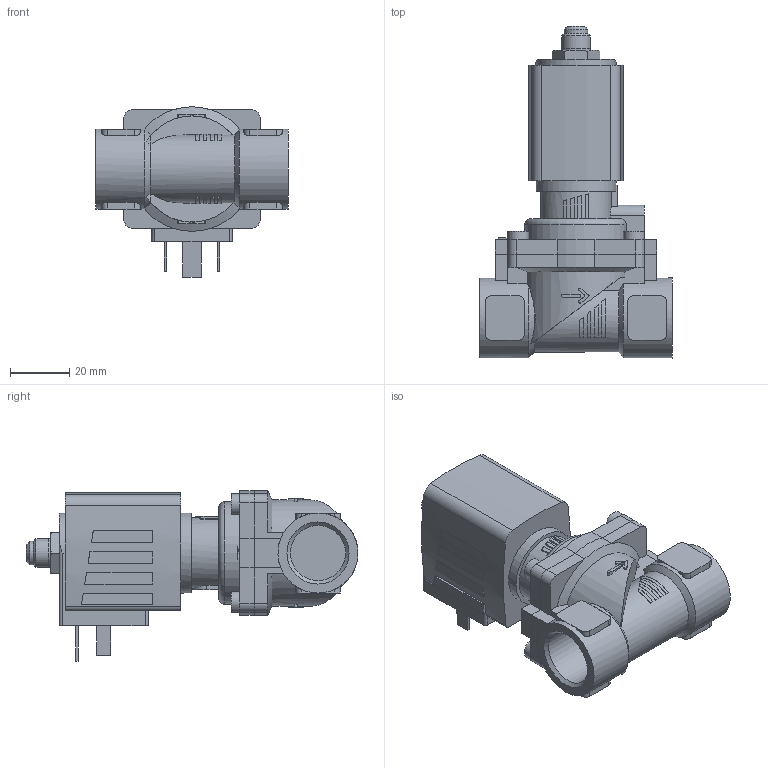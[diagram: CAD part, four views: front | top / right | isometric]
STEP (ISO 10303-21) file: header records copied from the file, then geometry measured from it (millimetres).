
FILE_DESCRIPTION(/* description */ ('STEP AP214'),/* implementation_level */ '2;1');
FILE_NAME(/* name */ '6281-301919-2_2-Way_Solenoid_Valve__Servo-assisted__General_Purpose',/* time_stamp */ '2024-05-20T10:22:32+02:00',/* author */ ('License CC BY-ND 4.0'),/* organization */ ('CADENAS'),/* preprocessor_version */ 'ST-DEVELOPER v19.3',/* originating_system */ 'PARTsolutions',/* authorisation */ ' ');
FILE_SCHEMA (('AUTOMOTIVE_DESIGN {1 0 10303 214 3 1 1}'));
Length unit declared in the file: millimetre
Products named in the file (4): 6281-301919-2/2-Way Solenoid Valve, Servo-assisted, General Purpose; 5281ev130MS2/2-Wege-Magnetventil mit Servomembran-Deckel 42 ; 6213-13G1/2MS-Gehaeuse-lang; AC10ex-5NA38-Gewinde-Coil
Assembly tree (3 placements, depth 2):
  6281-301919-2/2-Way Solenoid Valve, Servo-assisted, General Purpose
    5281ev130MS2/2-Wege-Magnetventil mit Servomembran-Deckel 42 
    6213-13G1/2MS-Gehaeuse-lang
    AC10ex-5NA38-Gewinde-Coil
Bounding box: 65 x 112 x 57.5 mm (x, y, z)
Volume: 119345.1 mm3; surface area: 29468.2 mm2
Topology: 3 solids, 3 shells, 348 faces, 885 edges, 579 vertices
Faces by surface type: plane 238, cylinder 94, cone 15, torus 1
Full cylindrical faces by diameter (mm): 2.013 x1, 2.7 x1, 7 x4, 8 x1, 9.73 x1, 9.74 x1, 18.631 x2, 27 x3
Entity records: 11809 total; most frequent: CARTESIAN_POINT 2043, DIRECTION 1758, ORIENTED_EDGE 1714, EDGE_CURVE 857, AXIS2_PLACEMENT_3D 618, VERTEX_POINT 571, LINE 522, VECTOR 522
